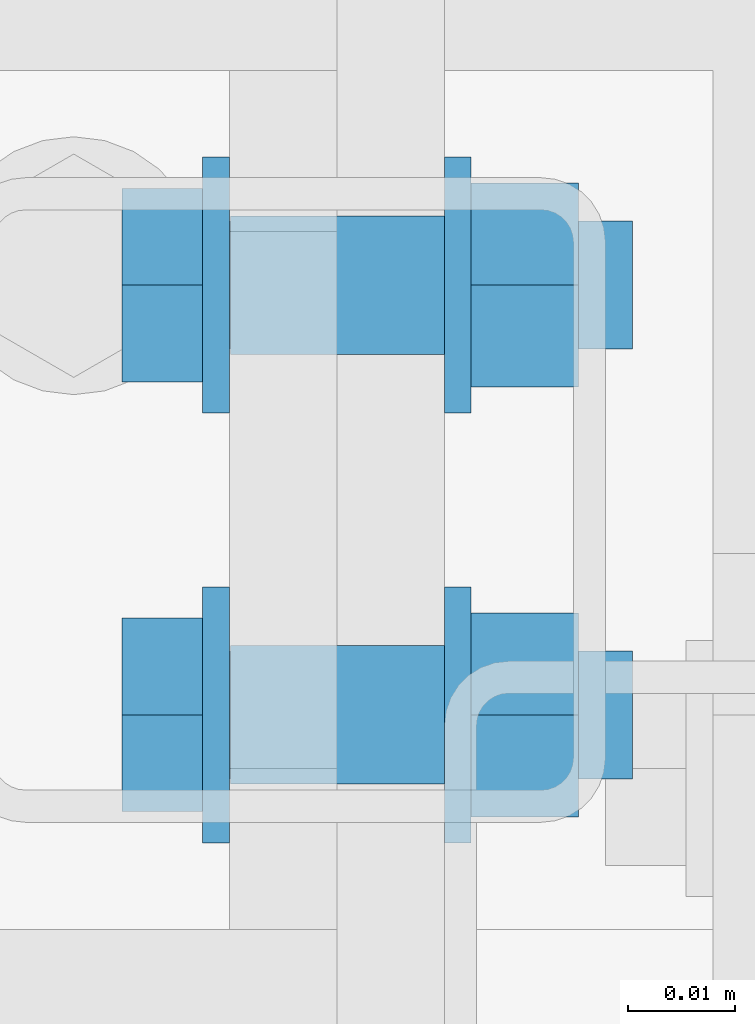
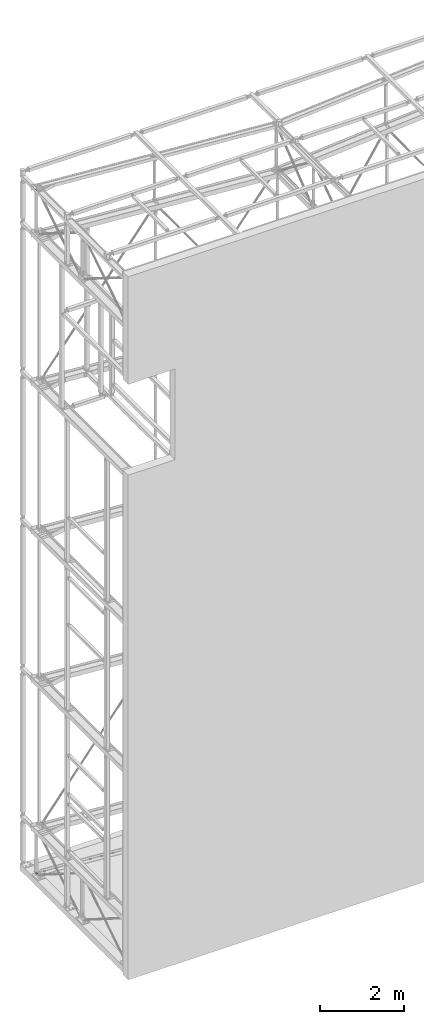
# One storey, part 249 of 271: 2 mechanical fasteners, 2 elements without a shape of their own.
"""IFC2X3 building model written with IfcOpenShell, lengths in millimetres."""

from ifc_helpers import new_model, si_unit, frame, origin_with_axes, origin_2d_with_axis, place, context, subcontext, project, spatial, polyline, circle, outline, extrude, source, transform, mapped, material, type_object, element, aggregate, save


model = new_model("IFC2X3")

# Units and contexts
model_context = context("Model", 3, precision=1e-05, world=origin_with_axes())
body_context = subcontext(model_context, "Body", "Model", "MODEL_VIEW")
ifc_project = project(units=[si_unit("LENGTHUNIT", "METRE", prefix="MILLI"), si_unit("AREAUNIT", "SQUARE_METRE"), si_unit("VOLUMEUNIT", "CUBIC_METRE"), si_unit("MASSUNIT", "GRAM", prefix="KILO"), si_unit("TIMEUNIT", "SECOND"), si_unit("PLANEANGLEUNIT", "RADIAN"), si_unit("SOLIDANGLEUNIT", "STERADIAN"), si_unit("THERMODYNAMICTEMPERATUREUNIT", "DEGREE_CELSIUS"), si_unit("LUMINOUSINTENSITYUNIT", "LUMEN")], contexts=[model_context])

# Site, building, storey
site_placement = place(None, origin_with_axes())
site = spatial("IfcSite", under=ifc_project, at=site_placement, Name="Undefined", CompositionType="ELEMENT")
building_placement = place(site_placement, origin_with_axes())
building = spatial("IfcBuilding", under=site, at=building_placement, Name="Undefined", CompositionType="ELEMENT")
storey_placement = place(building_placement, origin_with_axes())
storey = spatial("IfcBuildingStorey", under=building, at=storey_placement, Name="Undefined", CompositionType="ELEMENT", Elevation=0.0)

# Assembly, mechanical fastener
assembly_1_placement = place(storey_placement, origin_with_axes())
assembly_1 = element("IfcElementAssembly", 1, at=assembly_1_placement, inside=storey, AssemblyPlace="NOTDEFINED", PredefinedType="RIGID_FRAME")
ifc_material = material(Name="Undefined")
mechanical_fastener_type = type_object("IfcMechanicalFastenerType", Name="Bolt assembly")
shared_shape = source(origin_with_axes(), body_context, "Body", "SweptSolid", [
    extrude(circle(Radius=6.5, at=origin_2d_with_axis()), frame((0.0, -5.1, 0.0), z_axis=(0.0, 1.0, 0.0), x_axis=(1.0, 0.0, 0.0)), (0.0, 0.0, 1.0), 10.1),
    extrude(circle(Radius=6.5, at=origin_2d_with_axis()), frame((0.0, -14.9000000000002, 0.0), z_axis=(0.0, 1.0, 0.0), x_axis=(1.0, 0.0, 0.0)), (0.0, 0.0, 1.0), 10.0),
    extrude(outline(polyline([(10.39230484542, 0.0), (5.19615242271, 9.00000000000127), (-5.19615242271, 9.00000000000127), (-10.39230484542, 0.0), (-5.19615242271, -9.00000000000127), (5.19615242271, -9.00000000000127), (10.39230484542, 0.0)])), frame((0.0, -25.0000000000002, 0.0), z_axis=(0.0, 1.0, 0.0), x_axis=(1.0, 0.0, 0.0)), (0.0, 0.0, 1.0), 7.5),
    extrude(circle(Radius=6.0, at=origin_2d_with_axis()), frame((0.0, -17.5000000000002, 0.0), z_axis=(0.0, 1.0, 0.0), x_axis=(1.0, 0.0, 0.0)), (0.0, 0.0, 1.0), 40.0),
    extrude(circle(Radius=12.0, at=origin_2d_with_axis()), frame((0.0, -17.5000000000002, 0.0), z_axis=(0.0, 1.0, 0.0), x_axis=(1.0, 0.0, 0.0)), (0.0, 0.0, 1.0), 2.5),
    extrude(circle(Radius=12.0, at=origin_2d_with_axis()), frame((0.0, 5.00000000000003, 0.0), z_axis=(0.0, 1.0, 0.0), x_axis=(1.0, 0.0, 0.0)), (0.0, 0.0, 1.0), 2.5),
    extrude(outline(polyline([(10.96965511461, 0.0), (5.484827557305, 9.50000000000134), (-5.484827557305, 9.50000000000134), (-10.96965511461, 0.0), (-5.484827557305, -9.50000000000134), (5.484827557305, -9.50000000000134), (10.96965511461, 0.0)])), frame((0.0, 7.50000000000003, 0.0), z_axis=(0.0, 1.0, 0.0), x_axis=(1.0, 0.0, 0.0)), (0.0, 0.0, 1.0), 10.0),
])
mechanical_fastener_1_placement = place(assembly_1_placement, frame((87.9999996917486, 4337.19355050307, 55.0000000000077), z_axis=(0.0, 1.0, 0.0), x_axis=(0.0, 0.0, 1.0)))
mechanical_fastener_1 = element("IfcMechanicalFastener", 2, at=mechanical_fastener_1_placement, type_object=mechanical_fastener_type, material=ifc_material, Name="Bolt assembly", NominalDiameter=12.0, NominalLength=40.0, context=body_context, shape_type="MappedRepresentation", body=[
    mapped(shared_shape, transform((0.0, 0.0, -20.0))),
    mapped(shared_shape, transform((0.0, 0.0, 20.0))),
])
aggregate(assembly_1, [mechanical_fastener_1])

assembly_2_placement = place(storey_placement, origin_with_axes())
assembly_2 = element("IfcElementAssembly", 3, at=assembly_2_placement, inside=storey, AssemblyPlace="NOTDEFINED", PredefinedType="RIGID_FRAME")
mechanical_fastener_2_placement = place(assembly_2_placement, frame((87.9999996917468, 4337.19355050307, 19946.699999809), z_axis=(0.0, -1.0, 0.0), x_axis=(0.0, 0.0, -1.0)))
mechanical_fastener_2 = element("IfcMechanicalFastener", 4, at=mechanical_fastener_2_placement, type_object=mechanical_fastener_type, material=ifc_material, Name="Bolt assembly", NominalDiameter=12.0, NominalLength=40.0, context=body_context, shape_type="MappedRepresentation", body=[
    mapped(shared_shape, transform((0.0, 0.0, -20.0))),
    mapped(shared_shape, transform((0.0, 0.0, 20.0))),
])
aggregate(assembly_2, [mechanical_fastener_2])

save(model, "model.ifc")
